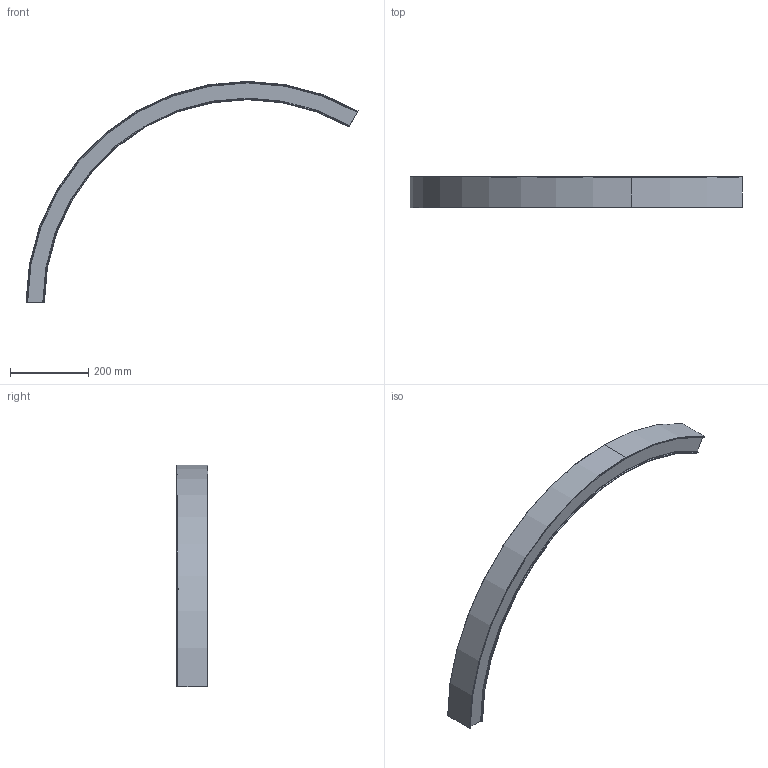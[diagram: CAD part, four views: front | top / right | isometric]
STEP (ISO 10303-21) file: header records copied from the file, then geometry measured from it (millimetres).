
FILE_DESCRIPTION (( 'STEP AP203' ), '1' );
FILE_NAME ('mLight_Swerve 47_R543.75 mm 120 deg.STEP', '2020-04-01T01:14:14', ( '' ), ( '' ), 'SwSTEP 2.0', 'SolidWorks 2017', '' );
FILE_SCHEMA (( 'CONFIG_CONTROL_DESIGN' ));
Length unit declared in the file: millimetre
Products named in the file (1): mLight_Swerve 47_R543.75 mm 120 deg
Bounding box: 850.88 x 80.63 x 567.25 mm (x, y, z)
Volume: 4105834.1 mm3; surface area: 321637.9 mm2
Topology: 1 solids, 1 shells, 79 faces, 209 edges, 132 vertices
Faces by surface type: torus 48, cylinder 12, plane 10, cone 9
Entity records: 2604 total; most frequent: DIRECTION 529, CARTESIAN_POINT 421, ORIENTED_EDGE 418, AXIS2_PLACEMENT_3D 240, EDGE_CURVE 209, CIRCLE 160, VERTEX_POINT 132, ADVANCED_FACE 79
